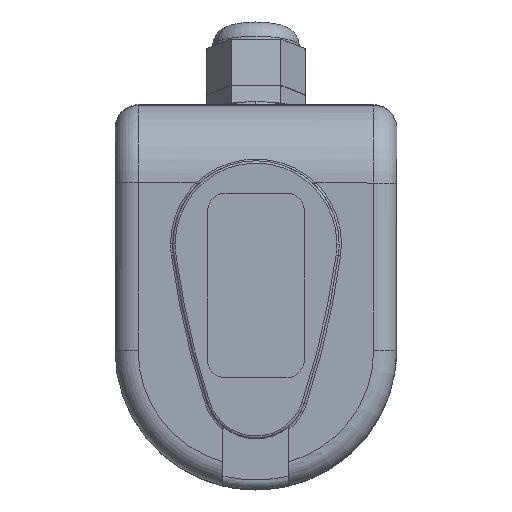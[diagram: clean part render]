
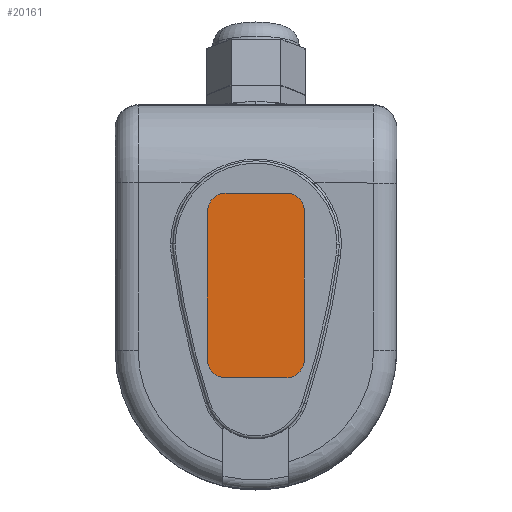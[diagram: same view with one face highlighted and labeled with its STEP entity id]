
A CAD part, front view. The second image highlights one B-rep face of the part: STEP entity #20161.
In plain terms, the highlighted planar face has unit normal (0, -1, 0) as drawn and (1, 0, 0) by its records, which use the part's own axes.
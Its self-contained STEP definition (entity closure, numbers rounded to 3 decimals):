
#130 = ORIENTED_EDGE ( 'NONE', *, *, #1241, .T. ) ;
#169 = EDGE_CURVE ( 'NONE', #15765, #18357, #20554, .T. ) ;
#1241 = EDGE_CURVE ( 'NONE', #13889, #15765, #1741, .T. ) ;
#1555 = VERTEX_POINT ( 'NONE', #11648 ) ;
#1741 = CIRCLE ( 'NONE', #11675, 4. ) ;
#1970 = EDGE_CURVE ( 'NONE', #8942, #13889, #16035, .T. ) ;
#2323 = CARTESIAN_POINT ( 'NONE',  ( 15.7, 19., -24. ) ) ;
#2394 = CARTESIAN_POINT ( 'NONE',  ( 15.7, 23., -37. ) ) ;
#2429 = CARTESIAN_POINT ( 'NONE',  ( 15.7, 23., -24. ) ) ;
#2826 = EDGE_CURVE ( 'NONE', #12916, #8942, #14888, .T. ) ;
#3519 = EDGE_CURVE ( 'NONE', #19712, #12916, #8147, .T. ) ;
#4138 = ORIENTED_EDGE ( 'NONE', *, *, #7726, .T. ) ;
#4205 = DIRECTION ( 'NONE',  ( 0., 0., 1. ) ) ;
#4235 = DIRECTION ( 'NONE',  ( 0., 0., -1. ) ) ;
#4266 = CARTESIAN_POINT ( 'NONE',  ( 15.7, 23., -41. ) ) ;
#5637 = FACE_OUTER_BOUND ( 'NONE', #21624, .T. ) ;
#5876 = DIRECTION ( 'NONE',  ( 0., 1., 0. ) ) ;
#6256 = AXIS2_PLACEMENT_3D ( 'NONE', #2429, #14971, #4235 ) ;
#6512 = EDGE_CURVE ( 'NONE', #18357, #1555, #21459, .T. ) ;
#7259 = ORIENTED_EDGE ( 'NONE', *, *, #1970, .T. ) ;
#7401 = AXIS2_PLACEMENT_3D ( 'NONE', #18552, #7835, #20351 ) ;
#7726 = EDGE_CURVE ( 'NONE', #17015, #19712, #21695, .T. ) ;
#7737 = LINE ( 'NONE', #8865, #21976 ) ;
#7835 = DIRECTION ( 'NONE',  ( 1., 0., 0. ) ) ;
#8147 = LINE ( 'NONE', #9225, #11781 ) ;
#8497 = DIRECTION ( 'NONE',  ( 1., 0., 0. ) ) ;
#8865 = CARTESIAN_POINT ( 'NONE',  ( 15.7, 59., -24. ) ) ;
#8942 = VERTEX_POINT ( 'NONE', #2323 ) ;
#9210 = DIRECTION ( 'NONE',  ( -1., 0., 0. ) ) ;
#9225 = CARTESIAN_POINT ( 'NONE',  ( 15.7, 55., -20. ) ) ;
#9535 = CARTESIAN_POINT ( 'NONE',  ( 15.7, 55., -20. ) ) ;
#9665 = CARTESIAN_POINT ( 'NONE',  ( 15.7, 55., -41. ) ) ;
#9746 = AXIS2_PLACEMENT_3D ( 'NONE', #19213, #8497, #20988 ) ;
#10468 = ORIENTED_EDGE ( 'NONE', *, *, #2826, .T. ) ;
#10878 = ORIENTED_EDGE ( 'NONE', *, *, #169, .T. ) ;
#10929 = CARTESIAN_POINT ( 'NONE',  ( 15.7, 55., -24. ) ) ;
#11286 = VECTOR ( 'NONE', #21382, 1000. ) ;
#11648 = CARTESIAN_POINT ( 'NONE',  ( 15.7, 59., -37. ) ) ;
#11675 = AXIS2_PLACEMENT_3D ( 'NONE', #2394, #14940, #4205 ) ;
#11781 = VECTOR ( 'NONE', #21686, 1000. ) ;
#12566 = CARTESIAN_POINT ( 'NONE',  ( 15.7, 19., -24. ) ) ;
#12916 = VERTEX_POINT ( 'NONE', #17896 ) ;
#13134 = ORIENTED_EDGE ( 'NONE', *, *, #6512, .T. ) ;
#13889 = VERTEX_POINT ( 'NONE', #22614 ) ;
#14376 = CARTESIAN_POINT ( 'NONE',  ( 15.7, 59., -24. ) ) ;
#14686 = VECTOR ( 'NONE', #5876, 1000. ) ;
#14888 = CIRCLE ( 'NONE', #6256, 4. ) ;
#14940 = DIRECTION ( 'NONE',  ( 1., 0., 0. ) ) ;
#14971 = DIRECTION ( 'NONE',  ( 1., 0., 0. ) ) ;
#15047 = ORIENTED_EDGE ( 'NONE', *, *, #3519, .T. ) ;
#15765 = VERTEX_POINT ( 'NONE', #4266 ) ;
#16035 = LINE ( 'NONE', #12566, #11286 ) ;
#16561 = CARTESIAN_POINT ( 'NONE',  ( 15.7, 55., -41. ) ) ;
#17015 = VERTEX_POINT ( 'NONE', #14376 ) ;
#17896 = CARTESIAN_POINT ( 'NONE',  ( 15.7, 23., -20. ) ) ;
#18303 = ORIENTED_EDGE ( 'NONE', *, *, #22215, .T. ) ;
#18357 = VERTEX_POINT ( 'NONE', #16561 ) ;
#18552 = CARTESIAN_POINT ( 'NONE',  ( 15.7, 55., -24. ) ) ;
#19213 = CARTESIAN_POINT ( 'NONE',  ( 15.7, 55., -37. ) ) ;
#19712 = VERTEX_POINT ( 'NONE', #9535 ) ;
#19833 = PLANE ( 'NONE',  #22842 ) ;
#20161 = ADVANCED_FACE ( 'NONE', ( #5637 ), #19833, .F. ) ;
#20351 = DIRECTION ( 'NONE',  ( 0., 0., 1. ) ) ;
#20554 = LINE ( 'NONE', #9665, #14686 ) ;
#20988 = DIRECTION ( 'NONE',  ( 0., 0., 1. ) ) ;
#21342 = DIRECTION ( 'NONE',  ( 0., 0., 1. ) ) ;
#21382 = DIRECTION ( 'NONE',  ( 0., 0., -1. ) ) ;
#21459 = CIRCLE ( 'NONE', #9746, 4. ) ;
#21624 = EDGE_LOOP ( 'NONE', ( #4138, #15047, #10468, #7259, #130, #10878, #13134, #18303 ) ) ;
#21663 = DIRECTION ( 'NONE',  ( 0., 0., 1. ) ) ;
#21686 = DIRECTION ( 'NONE',  ( 0., -1., 0. ) ) ;
#21695 = CIRCLE ( 'NONE', #7401, 4. ) ;
#21976 = VECTOR ( 'NONE', #21342, 1000. ) ;
#22215 = EDGE_CURVE ( 'NONE', #1555, #17015, #7737, .T. ) ;
#22614 = CARTESIAN_POINT ( 'NONE',  ( 15.7, 19., -37. ) ) ;
#22842 = AXIS2_PLACEMENT_3D ( 'NONE', #10929, #9210, #21663 ) ;
